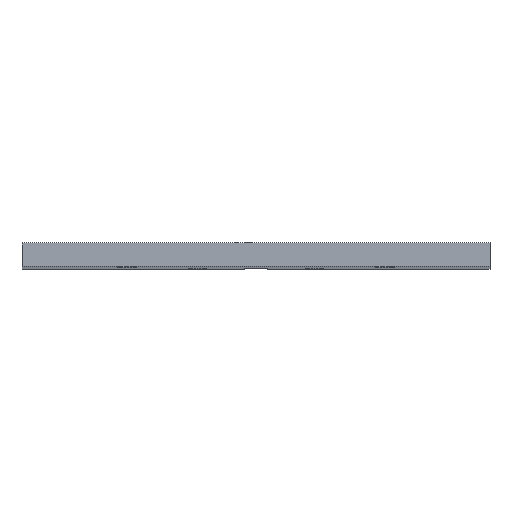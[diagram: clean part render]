
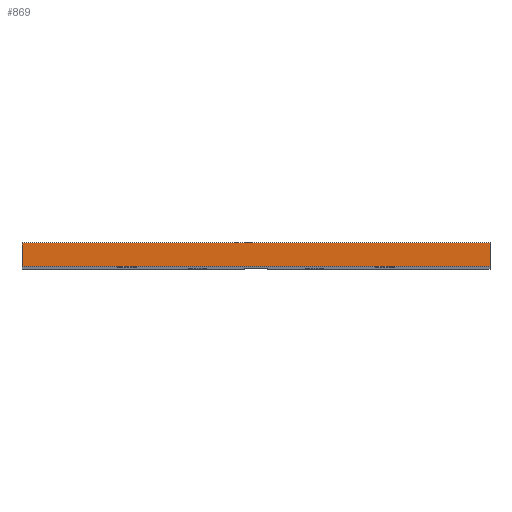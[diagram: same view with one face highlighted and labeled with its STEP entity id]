
A CAD part, top view. The second image highlights one B-rep face of the part: STEP entity #869.
In plain terms, the highlighted planar face has unit normal (0, 0, 1).
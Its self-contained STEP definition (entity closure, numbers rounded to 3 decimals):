
#27=LINE('',#1433,#51);
#32=LINE('',#1443,#56);
#37=LINE('',#1452,#61);
#38=LINE('',#1454,#62);
#51=VECTOR('',#1211,10.);
#56=VECTOR('',#1220,10.);
#61=VECTOR('',#1229,10.);
#62=VECTOR('',#1232,10.);
#71=PLANE('',#983);
#217=FACE_OUTER_BOUND('',#329,.T.);
#329=EDGE_LOOP('',(#747,#748,#749,#750));
#510=VERTEX_POINT('',#1430);
#511=VERTEX_POINT('',#1432);
#514=VERTEX_POINT('',#1442);
#516=VERTEX_POINT('',#1450);
#597=EDGE_CURVE('',#511,#510,#27,.T.);
#602=EDGE_CURVE('',#511,#514,#32,.T.);
#607=EDGE_CURVE('',#510,#516,#37,.T.);
#608=EDGE_CURVE('',#514,#516,#38,.T.);
#747=ORIENTED_EDGE('',*,*,#597,.T.);
#748=ORIENTED_EDGE('',*,*,#607,.T.);
#749=ORIENTED_EDGE('',*,*,#608,.F.);
#750=ORIENTED_EDGE('',*,*,#602,.F.);
#869=ADVANCED_FACE('',(#217),#71,.T.);
#983=AXIS2_PLACEMENT_3D('',#1453,#1230,#1231);
#1211=DIRECTION('',(1.,0.,0.));
#1220=DIRECTION('',(0.,1.,0.));
#1229=DIRECTION('',(0.,1.,0.));
#1230=DIRECTION('center_axis',(0.,0.,1.));
#1231=DIRECTION('ref_axis',(1.,0.,0.));
#1232=DIRECTION('',(1.,0.,0.));
#1430=CARTESIAN_POINT('',(100.,0.,325.));
#1432=CARTESIAN_POINT('',(-100.,0.,325.));
#1433=CARTESIAN_POINT('',(-100.,0.,325.));
#1442=CARTESIAN_POINT('',(-100.,10.,325.));
#1443=CARTESIAN_POINT('',(-100.,0.,325.));
#1450=CARTESIAN_POINT('',(100.,10.,325.));
#1452=CARTESIAN_POINT('',(100.,0.,325.));
#1453=CARTESIAN_POINT('Origin',(-100.,0.,325.));
#1454=CARTESIAN_POINT('',(-100.,10.,325.));
